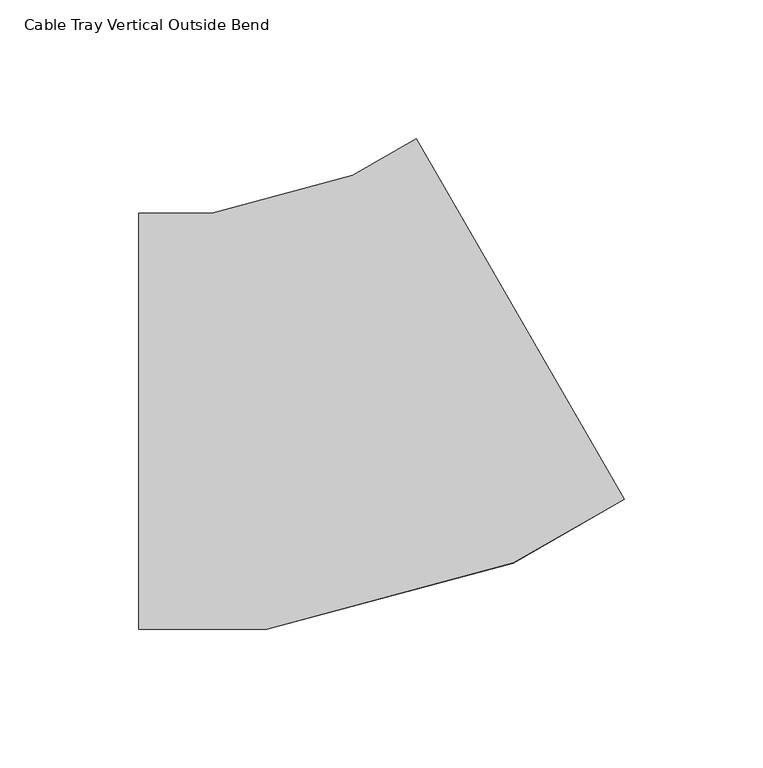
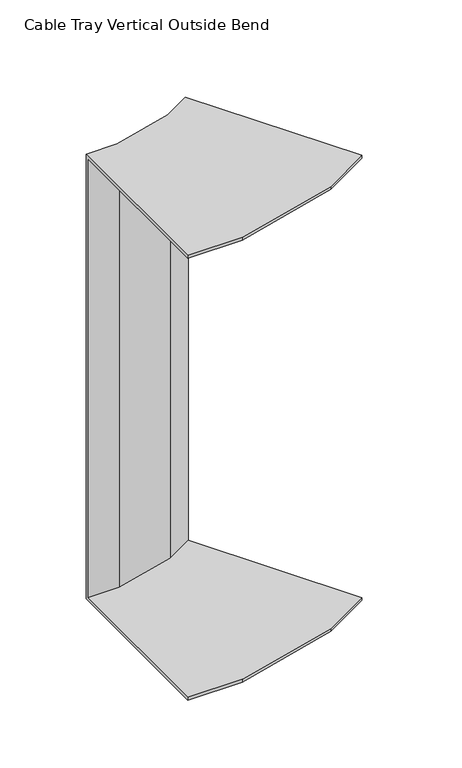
"""IFC4 building model written with IfcOpenShell, lengths in millimetres: cable carrier fitting geometry, Cable Tray Vertical Outside Bend : ELEC_ELV_TKG_N2402."""

from ifc_helpers import new_model, si_unit, origin, place, context, project, spatial, faceted_brep, source, transform, mapped, element, save


def cable_tray_vertical_outside_bend_ccf5aebb(model_context):
    return source(origin(), model_context, "Body", "Brep", [
        faceted_brep([(-73.6860279, -75.0, 200.0), (-73.6860279, 75.0, 200.0), (-73.6860279, 75.0, -200.0), (-73.6860279, -75.0, -200.0), (-73.6860279, -75.0, -197.46), (-73.6860279, 72.46, -197.46), (-73.6860279, 72.46, 197.46), (-73.6860279, -75.0, 197.46), (101.3139721, -28.1088913, 200.0), (101.3139721, -28.1088913, 197.46), (27.5839721, 99.5952147, 197.46), (27.5839721, 99.5952147, -197.46), (101.3139721, -28.1088913, -197.46), (101.3139721, -28.1088913, -200.0), (26.3139721, 101.7949192, -200.0), (26.3139721, 101.7949192, 200.0), (-27.6076538, -75.0, 200.0), (61.4089295, -51.1480784, 200.0), (3.5110906, 88.6296695, 200.0), (-47.3555284, 75.0, 200.0), (-47.3555284, 75.0, -200.0), (3.5110906, 88.6296695, -200.0), (61.4089295, -51.1480784, -200.0), (-27.6076538, -75.0, -200.0), (-27.6076538, -75.0, -197.46), (61.4089295, -51.1480784, -197.46), (4.491494, 86.2627663, -197.46), (-47.0211311, 72.46, -197.46), (-47.0211311, 72.46, 197.46), (4.491494, 86.2627663, 197.46), (61.4089295, -51.1480784, 197.46), (-27.6076538, -75.0, 197.46)], [[[0, 1, 2, 3, 4, 5, 6, 7]], [[8, 9, 10, 11, 12, 13, 14, 15]], [[1, 0, 16, 17, 8, 15, 18, 19]], [[2, 1, 19, 20]], [[3, 2, 20, 21, 14, 13, 22, 23]], [[4, 3, 23, 24]], [[5, 4, 24, 25, 12, 11, 26, 27]], [[6, 5, 27, 28]], [[7, 6, 28, 29, 10, 9, 30, 31]], [[0, 7, 31, 16]], [[20, 19, 18, 21]], [[24, 23, 22, 25]], [[28, 27, 26, 29]], [[16, 31, 30, 17]], [[21, 18, 15, 14]], [[25, 22, 13, 12]], [[29, 26, 11, 10]], [[17, 30, 9, 8]]]),
    ])


if __name__ == "__main__":
    model = new_model("IFC4")
    model_context = context("Model", 3, world=origin())
    ifc_project = project(units=[si_unit("LENGTHUNIT", "METRE", prefix="MILLI")], contexts=[model_context])
    site = spatial("IfcSite", under=ifc_project)
    building = spatial("IfcBuilding", under=site)
    placement = place(None, origin())
    cable_tray_vertical_outside_bend_shape = cable_tray_vertical_outside_bend_ccf5aebb(model_context)
    element("IfcCableCarrierFitting", 1, ObjectType="Cable Tray Vertical Outside Bend : ELEC_ELV_TKG_N2402", at=placement, inside=building, context=model_context, shape_type="MappedRepresentation", body=[
        mapped(cable_tray_vertical_outside_bend_shape, transform((0.0, 0.0, 0.0), x_axis=(1.0, 0.0, 0.0), y_axis=(0.0, 1.0, 0.0), z_axis=(0.0, 0.0, 1.0))),
    ])
    save(model, "model.ifc")
